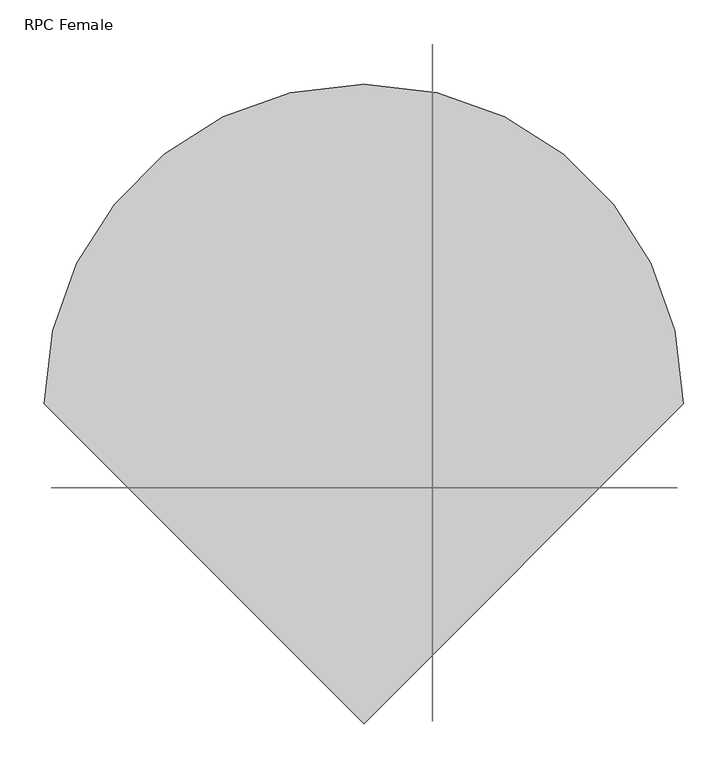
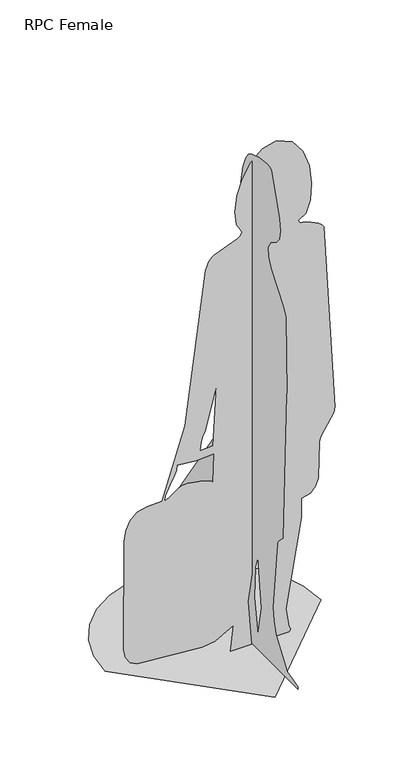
"""IFC4 building model written with IfcOpenShell, lengths in millimetres: proxy geometry, RPC Female : Cathy."""

from ifc_helpers import new_model, si_unit, origin, place, context, project, spatial, triangles, source, transform, mapped, element, save


def rpc_female_16ef0111(model_context):
    return source(origin(), model_context, "Body", "Tessellation", [
        triangles([(-53.8897339, -117.4601178, 747.7914923), (-98.219568, -117.4601087, 744.8361494), (-95.108021, -117.4600905, 773.4306976), (-89.3745229, -117.4600905, 791.5245787), (-80.4876198, -117.4600996, 806.8979136), (-42.0684442, -117.4600905, 957.6191643), (-111.0216118, -117.4601178, 714.2722446), (-50.9344274, -117.4601178, 718.2382816), (-53.8897384, -117.4601269, 617.7574236), (-59.3182043, -117.4601269, 623.2589773), (-93.5171207, -117.4601178, 636.2914667), (-138.3302102, -117.4601178, 644.4038349), (-157.0263346, -117.4601178, 643.7551826), (-169.1471972, -117.4601178, 638.4446783), (-200.5937698, -117.4601178, 617.4117325), (-207.9950259, -117.4601178, 613.0218115), (-213.5513183, -117.4601178, 610.0099314), (-216.4323016, -117.4601178, 608.8914677), (-214.1223227, -117.4601178, 624.6304779), (-191.1441286, -117.4601178, 672.8652517), (-182.9984593, -117.4601178, 688.9846167), (-177.0411558, -117.4601178, 704.9755011), (-174.7311587, -117.4601178, 720.7485209), (201.8996494, -117.4601995, 0.0), (204.1572332, -117.4601995, 3.9497842), (204.9443945, -117.4601995, 7.6373274), (204.6663228, -117.4601995, 10.9642256), (203.7280988, -117.4601995, 13.8318444), (202.5350212, -117.4601995, 16.1416667), (201.4921343, -117.4601995, 17.7951722), (201.0045914, -117.4601995, 18.6940715), (190.829086, -117.4601905, 85.6587976), (242.182801, -117.460145, 390.4929889), (241.6422635, -117.460136, 458.1701806), (271.5640563, -117.460145, 465.087818), (289.7426705, -117.460145, 483.6791977), (298.9891083, -117.460145, 510.7019305), (302.8728829, -117.4601178, 638.2599512), (307.2950512, -117.4601178, 654.1493883), (350.722851, -117.4601178, 724.6059889), (355.1450738, -117.4601178, 742.1577518), (318.2959059, -117.4600451, 1393.2515854), (310.2570797, -117.4600451, 1402.8329773), (299.7626803, -117.4600451, 1411.0185242), (287.5348656, -117.4600451, 1417.9618504), (274.2956665, -117.4600451, 1423.8161442), (260.7673861, -117.4600451, 1428.7353207), (247.6719645, -117.460036, 1432.8724228), (235.7316504, -117.460036, 1436.3809296), (232.7763258, -117.460027, 1445.2468128), (257.0990054, -117.460027, 1461.5501781), (272.1357147, -117.4600179, 1503.7727463), (276.4825424, -117.4600179, 1561.8838795), (268.7356134, -117.4600179, 1625.85294), (247.4910707, -117.4599997, 1685.6494354), (211.3449304, -117.4599815, 1731.241856), (158.8933355, -117.4599815, 1752.6), (111.9792841, -117.4599997, 1741.2460419), (73.5044523, -117.4599997, 1707.6616093), (44.4950493, -117.4599997, 1659.4346111), (25.9772707, -117.4599997, 1604.1516483), (18.977338, -117.4600179, 1549.4009205), (24.5214547, -117.460027, 1502.7694645), (43.6358267, -117.460027, 1471.8447533), (41.3972688, -117.460027, 1464.7698944), (35.6110417, -117.460027, 1458.4332172), (27.6713397, -117.460027, 1452.9626209), (-51.2763305, -117.460027, 1421.2944958), (-57.2814873, -117.460027, 1416.9136585), (-62.6000625, -117.460027, 1411.6523518), (-67.2045552, -117.460027, 1405.3326794), (-71.0675144, -117.460027, 1397.7771812), (-78.5115504, -117.460036, 1375.7985809), (-147.1775172, -117.4600905, 850.6698057), (-225.2982757, -117.4601178, 611.8468105), (-275.5387047, -117.4601178, 608.9837222), (-309.4106924, -117.4601178, 601.3092633), (-332.2616595, -117.460136, 580.586255), (-345.871839, -117.460136, 550.2653586), (-352.0215726, -117.460136, 513.7975628), (-353.4932851, -117.4601814, 128.4620444), (-346.9370719, -117.4601814, 99.2247937), (-332.6278799, -117.4601814, 77.1089652), (-308.0472582, -117.4601814, 65.1126907), (-90.318615, -117.4601905, 47.8453172), (-48.0055137, -117.4601995, 54.0576651), (14.082582, -117.4601814, 88.7552838), (4.1153241, -117.4601995, 0.0), (74.905248, -117.4601995, 0.0), (62.2912378, -117.4601814, 156.8197702), (96.4067154, -117.4601632, 387.4205747), (115.2694993, -117.460145, 437.4783113), (119.5505425, -117.460145, 442.4700125), (126.1976023, -117.460145, 426.9860739), (137.0055908, -117.4601905, 156.8197702), (121.1132469, -117.4601905, 51.6135511), (117.2150746, -117.4601995, 8.0698619), (119.7952405, -117.4601995, 0.0), (77.8998872, -135.0689903, 282.8198191), (77.8999053, -130.3112592, 172.9542868), (77.8999053, -152.666717, 33.5277909), (77.8998962, -152.9639736, 69.4067782), (77.8998962, -169.5676113, 157.0970425), (77.8998872, -150.7274549, 328.1361483), (77.8999235, -3.0161069, 25.7191991), (77.8999144, -45.3516513, 189.0513784), (77.8999053, -55.7878012, 386.7806791), (77.8999053, -80.3274734, 494.488567), (77.8998962, -80.5197309, 517.4922137), (77.8998962, -76.8444192, 540.9191631), (77.8999326, 171.7711105, 87.0856001), (77.8999326, 227.9934782, 18.8921949), (77.8999417, 243.0885597, 6.7222562), (77.8999417, 252.4889307, 5.452254), (77.8999417, 269.9439154, 56.8931116), (77.8999417, 279.0120574, 68.4347354), (77.8999507, 291.5890695, 78.625724), (77.8999507, 306.5135219, 86.7939936), (77.8999507, 322.6236577, 92.2677329), (77.8999507, 338.7581743, 94.3743994), (77.8999507, 353.7552604, 92.4425951), (77.8999598, 366.4534315, 85.8000045), (77.8999598, 384.1853797, 100.5765735), (77.8999598, 379.3157278, 104.3952085), (77.8999598, 377.4686022, 114.2298371), (77.8999507, 381.8251677, 165.1035306), (77.8999507, 381.2300732, 168.5488871), (77.8999417, 338.4704739, 250.651234), (77.8999144, 99.3685259, 604.619163), (77.8999053, 81.9908075, 622.8976622), (77.8999053, 71.6510635, 630.1974346), (77.8998962, 65.9634019, 629.1904467), (77.8999053, 34.7907134, 610.2242352), (77.8999053, 19.0471943, 595.6349367), (77.8999053, 17.7257917, 591.1596285), (77.8999053, -56.1572145, 535.0085137), (77.8999053, -58.1474636, 537.2532895), (77.8998962, -66.8437306, 552.4633713), (77.8998962, -72.056998, 563.5967397), (77.8998962, -76.8518861, 575.860853), (77.8998962, -80.4819879, 588.3398515), (77.8998872, -82.2009418, 600.1177663), (77.8998872, -81.1848883, 771.341581), (77.8998872, -63.9148941, 863.048992), (77.8998781, -84.6021398, 1046.8329048), (77.8998781, -47.4759084, 1306.3470062), (77.8998781, -76.8443647, 1454.1129868), (77.8998781, -53.879274, 1467.406216), (77.8998781, -43.415028, 1502.0613682), (77.8998781, -43.0930183, 1550.2417122), (77.8998599, -63.4409995, 1655.8304707), (77.899869, -79.3936732, 1697.5648418), (77.8998508, -96.0539571, 1721.476609), (77.8998508, -113.8031281, 1732.016082), (77.8998508, -158.8975503, 1746.5525494), (77.8998417, -202.5218316, 1750.8739426), (77.8998417, -218.4332695, 1748.6439915), (77.8998417, -227.5580215, 1743.1885105), (77.8998417, -274.5730659, 1600.1668625), (77.8998327, -278.9160421, 1559.8313885), (77.8998417, -274.1260729, 1527.2763988), (77.8998508, -257.1188624, 1507.3087223), (77.8998508, -224.7025635, 1486.3441589), (77.8998508, -208.3492375, 1458.8658943), (77.8998599, -210.3772388, 1428.4683311), (77.8998599, -225.4877263, 1396.3826443), (77.8998508, -296.3249177, 1302.3062645), (77.8998508, -310.7761977, 1275.7776512), (77.8998599, -316.9742932, 1010.797677), (77.8998599, -316.2252837, 1004.9043594), (77.899869, -295.5380835, 481.8127419), (77.899869, -293.466662, 480.3784181), (77.899869, -269.2360189, 455.7556841), (77.899869, -264.2243517, 447.8189229), (77.899869, -261.6441313, 440.3457962), (77.8998872, -237.1920628, 202.61841), (77.8998872, -242.132041, 157.050352), (77.8998872, -253.7941926, 116.4614324), (77.8998781, -322.1359694, 23.7382494), (77.8998781, -325.7638367, 23.3657181), (77.8998781, -333.8456835, 21.7296988), (77.8998781, -344.6723845, 19.2407246), (77.8998781, -356.5344875, 16.3091608), (77.8998781, -367.7231578, 13.3450226), (77.899869, -376.528834, 10.7590158), (77.899869, -381.2423907, 8.961618), (77.899869, -381.1266638, 8.1774101), (77.899869, -381.0533398, 7.1637053), (77.899869, -381.015406, 5.9590209), (77.899869, -381.0055956, 4.6018718), (77.899869, -381.0169321, 3.1304315), (77.899869, -381.0421486, 1.583731), (77.899869, -381.0741597, 0.0001143), (77.8999235, -6.2279674, 0.0001143), (361.7311907, -22.454055, 0.0001143), (352.1681843, 60.4307954, 0.0001143), (324.9329281, 136.5472794, 0.0002286), (282.2061211, 203.714564, 0.0001143), (226.1687349, 259.7520048, 0.0001143), (159.0013776, 302.4787209, 0.0001143), (82.8849026, 329.7140316, 0.0001143), (6.01e-05, 339.2770743, 0.0001143), (-82.8847936, 329.7141043, 0.0001143), (-159.0012686, 302.4787754, 0.0002286), (-226.1685714, 259.7519684, 0.0001143), (-282.2060666, 203.7146185, 0.0001143), (-324.9327464, 136.5472612, 0.0001143), (-352.1680389, 60.4307818, 0.0001143), (-361.7310817, -22.4540482, 0.0002286), (8.56e-05, -384.1851617, 0.0001143)], [[1, 2, 8], [34, 1, 8], [34, 8, 9], [87, 88, 89], [87, 89, 90], [7, 8, 2], [97, 98, 24], [96, 97, 24], [96, 24, 25], [96, 25, 26], [96, 26, 27], [96, 27, 28], [96, 28, 29], [96, 29, 30], [96, 30, 31], [96, 31, 32], [95, 96, 32], [95, 32, 33], [95, 33, 34], [94, 95, 34], [93, 94, 34], [93, 34, 9], [92, 93, 9], [1, 34, 35], [1, 35, 36], [1, 36, 37], [1, 37, 38], [1, 38, 39], [6, 1, 39], [6, 39, 40], [6, 40, 41], [6, 41, 42], [6, 42, 43], [6, 43, 44], [6, 44, 45], [6, 45, 46], [6, 46, 47], [6, 47, 48], [6, 48, 49], [91, 92, 9], [6, 49, 50], [7, 2, 3], [23, 7, 3], [50, 51, 52], [56, 57, 58], [56, 58, 59], [55, 56, 59], [55, 59, 60], [54, 55, 60], [54, 60, 61], [53, 54, 61], [53, 61, 62], [52, 53, 62], [50, 52, 62], [50, 62, 63], [50, 63, 64], [6, 50, 64], [6, 64, 65], [6, 65, 66], [6, 66, 67], [6, 67, 68], [6, 68, 69], [6, 69, 70], [6, 70, 71], [6, 71, 72], [6, 72, 73], [5, 6, 73], [5, 73, 74], [4, 5, 74], [3, 4, 74], [23, 3, 74], [23, 74, 75], [22, 23, 75], [21, 22, 75], [20, 21, 75], [19, 20, 75], [18, 19, 75], [90, 91, 9], [87, 90, 9], [86, 87, 9], [85, 86, 9], [84, 85, 9], [83, 84, 9], [82, 83, 9], [81, 82, 9], [80, 81, 9], [79, 80, 9], [78, 79, 9], [77, 78, 9], [18, 75, 76], [12, 13, 14], [11, 12, 14], [11, 14, 15], [10, 11, 15], [9, 10, 15], [9, 15, 16], [9, 16, 17], [9, 17, 18], [77, 9, 18], [77, 18, 76], [100, 101, 106], [122, 123, 124], [100, 106, 107], [99, 100, 107], [104, 99, 107], [105, 106, 101], [194, 105, 101], [193, 194, 101], [192, 193, 101], [191, 192, 101], [190, 191, 101], [189, 190, 101], [188, 189, 101], [187, 188, 101], [186, 187, 101], [185, 186, 101], [184, 185, 101], [183, 184, 101], [182, 183, 101], [181, 182, 101], [180, 181, 101], [179, 180, 101], [178, 179, 101], [178, 101, 102], [177, 178, 102], [177, 102, 103], [176, 177, 103], [175, 176, 103], [175, 103, 104], [121, 122, 124], [113, 114, 115], [112, 113, 115], [111, 112, 115], [121, 124, 125], [175, 104, 107], [175, 107, 108], [174, 175, 108], [174, 108, 109], [173, 174, 109], [173, 109, 110], [172, 173, 110], [111, 115, 116], [170, 171, 172], [170, 172, 110], [120, 121, 125], [120, 125, 126], [111, 116, 117], [111, 117, 118], [110, 111, 118], [110, 118, 119], [110, 119, 120], [110, 120, 126], [110, 126, 127], [110, 127, 128], [130, 131, 132], [147, 148, 149], [129, 130, 132], [129, 132, 133], [129, 133, 134], [129, 134, 135], [129, 135, 136], [128, 129, 136], [110, 128, 136], [110, 136, 137], [110, 137, 138], [170, 110, 138], [170, 138, 139], [170, 139, 140], [170, 140, 141], [170, 141, 142], [170, 142, 143], [170, 143, 144], [170, 144, 145], [169, 170, 145], [168, 169, 145], [167, 168, 145], [167, 145, 146], [166, 167, 146], [165, 166, 146], [164, 165, 146], [164, 146, 147], [164, 147, 149], [164, 149, 150], [163, 164, 150], [163, 150, 151], [162, 163, 151], [161, 162, 151], [160, 161, 151], [159, 160, 151], [159, 151, 152], [159, 152, 153], [159, 153, 154], [159, 154, 155], [159, 155, 156], [158, 159, 156], [158, 156, 157], [209, 210, 195], [208, 209, 195], [208, 195, 196], [207, 208, 196], [207, 196, 197], [207, 197, 198], [206, 207, 198], [205, 206, 198], [205, 198, 199], [205, 199, 200], [205, 200, 201], [205, 201, 202], [205, 202, 203], [205, 203, 204]], closed=False),
    ])


if __name__ == "__main__":
    model = new_model("IFC4")
    model_context = context("Model", 3, world=origin())
    ifc_project = project(units=[si_unit("LENGTHUNIT", "METRE", prefix="MILLI")], contexts=[model_context])
    site = spatial("IfcSite", under=ifc_project)
    building = spatial("IfcBuilding", under=site)
    placement = place(None, origin())
    rpc_female_shape = rpc_female_16ef0111(model_context)
    element("IfcBuildingElementProxy", 1, Name="RPC Female : Cathy", ObjectType="RPC Female : Cathy", at=placement, inside=building, context=model_context, shape_type="MappedRepresentation", body=[
        mapped(rpc_female_shape, transform((0.0, 0.0, 0.0), x_axis=(1.0, 0.0, 0.0), y_axis=(0.0, 1.0, 0.0), z_axis=(0.0, 0.0, 1.0))),
    ])
    save(model, "model.ifc")
